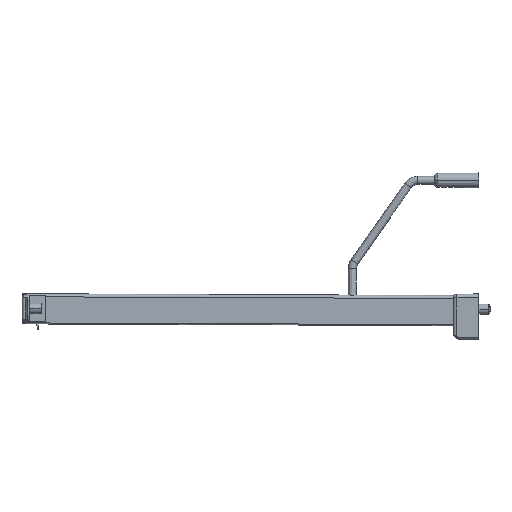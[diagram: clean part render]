
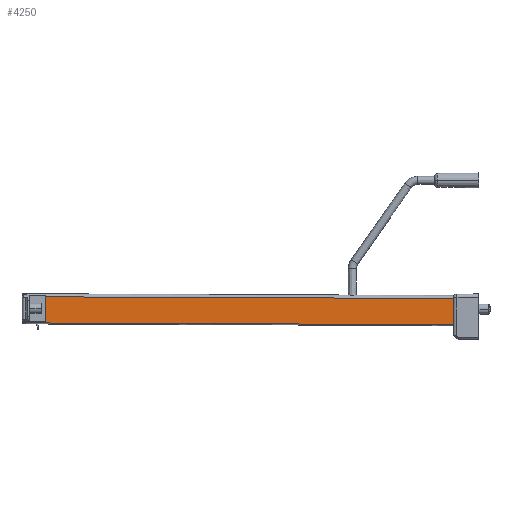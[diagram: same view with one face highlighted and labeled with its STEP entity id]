
A CAD part, left-side view. The second image highlights one B-rep face of the part: STEP entity #4250.
In plain terms, the highlighted planar face has unit normal (-1, 0, 0).
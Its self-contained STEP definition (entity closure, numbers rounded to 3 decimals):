
#932 = CARTESIAN_POINT ( 'NONE',  ( -5.25, 25., -15.5 ) ) ;
#1013 = CARTESIAN_POINT ( 'NONE',  ( -5.25, 25., 10.5 ) ) ;
#1034 = PLANE ( 'NONE',  #4063 ) ;
#1035 = CARTESIAN_POINT ( 'NONE',  ( -5.25, 484.24, -13.665 ) ) ;
#1036 = DIRECTION ( 'NONE',  ( 1., 0., 0. ) ) ;
#1037 = DIRECTION ( 'NONE',  ( 0., 0., 1. ) ) ;
#1256 = CARTESIAN_POINT ( 'NONE',  ( -5.25, 430.9, 12.122 ) ) ;
#1257 = CARTESIAN_POINT ( 'NONE',  ( -5.25, 451.4, -13.796 ) ) ;
#1261 = CARTESIAN_POINT ( 'NONE',  ( -5.25, 430.9, -12.42 ) ) ;
#1262 = CARTESIAN_POINT ( 'NONE',  ( -5.25, 451.4, -12.42 ) ) ;
#1334 = ORIENTED_EDGE ( 'NONE', *, *, #3850, .T. ) ;
#1335 = ORIENTED_EDGE ( 'NONE', *, *, #3849, .T. ) ;
#1336 = ORIENTED_EDGE ( 'NONE', *, *, #3848, .F. ) ;
#1337 = ORIENTED_EDGE ( 'NONE', *, *, #3847, .T. ) ;
#1338 = ORIENTED_EDGE ( 'NONE', *, *, #3846, .T. ) ;
#1339 = ORIENTED_EDGE ( 'NONE', *, *, #3845, .F. ) ;
#1853 = VERTEX_POINT ( 'NONE', #1256 ) ;
#1854 = VERTEX_POINT ( 'NONE', #1257 ) ;
#1858 = VERTEX_POINT ( 'NONE', #1261 ) ;
#1859 = VERTEX_POINT ( 'NONE', #1262 ) ;
#1922 = VERTEX_POINT ( 'NONE', #1013 ) ;
#1932 = VERTEX_POINT ( 'NONE', #932 ) ;
#2208 = CARTESIAN_POINT ( 'NONE',  ( -5.25, 484.136, 12.335 ) ) ;
#2209 = DIRECTION ( 'NONE',  ( 0., -1., -0.004 ) ) ;
#2210 = CARTESIAN_POINT ( 'NONE',  ( -5.25, 25., 15. ) ) ;
#2211 = DIRECTION ( 'NONE',  ( 0., 0., 1. ) ) ;
#2212 = CARTESIAN_POINT ( 'NONE',  ( -5.25, 484.24, -13.665 ) ) ;
#2213 = DIRECTION ( 'NONE',  ( 0., -1., -0.004 ) ) ;
#2214 = CARTESIAN_POINT ( 'NONE',  ( -5.25, 451.4, -13.665 ) ) ;
#2215 = DIRECTION ( 'NONE',  ( 0., 0., 1. ) ) ;
#2216 = CARTESIAN_POINT ( 'NONE',  ( -5.25, 430.9, -12.42 ) ) ;
#2217 = DIRECTION ( 'NONE',  ( 0., 1., 0. ) ) ;
#2218 = CARTESIAN_POINT ( 'NONE',  ( -5.25, 430.9, 13.6 ) ) ;
#2219 = DIRECTION ( 'NONE',  ( 0., 0., -1. ) ) ;
#2887 = LINE ( 'NONE', #2208, #2888 ) ;
#2888 = VECTOR ( 'NONE', #2209, 1000. ) ;
#2889 = LINE ( 'NONE', #2210, #2890 ) ;
#2890 = VECTOR ( 'NONE', #2211, 1000. ) ;
#2891 = LINE ( 'NONE', #2212, #2892 ) ;
#2892 = VECTOR ( 'NONE', #2213, 1000. ) ;
#2893 = LINE ( 'NONE', #2214, #2894 ) ;
#2894 = VECTOR ( 'NONE', #2215, 1000. ) ;
#2895 = LINE ( 'NONE', #2216, #2896 ) ;
#2896 = VECTOR ( 'NONE', #2217, 1000. ) ;
#2897 = LINE ( 'NONE', #2218, #2898 ) ;
#2898 = VECTOR ( 'NONE', #2219, 1000. ) ;
#3098 = FACE_OUTER_BOUND ( 'NONE', #5231, .T. ) ;
#3845 = EDGE_CURVE ( 'NONE', #1853, #1922, #2887, .T. ) ;
#3846 = EDGE_CURVE ( 'NONE', #1932, #1922, #2889, .T. ) ;
#3847 = EDGE_CURVE ( 'NONE', #1854, #1932, #2891, .T. ) ;
#3848 = EDGE_CURVE ( 'NONE', #1854, #1859, #2893, .T. ) ;
#3849 = EDGE_CURVE ( 'NONE', #1858, #1859, #2895, .T. ) ;
#3850 = EDGE_CURVE ( 'NONE', #1853, #1858, #2897, .T. ) ;
#4063 = AXIS2_PLACEMENT_3D ( 'NONE', #1035, #1036, #1037 ) ;
#4250 = ADVANCED_FACE ( 'NONE', ( #3098 ), #1034, .F. ) ;
#5231 = EDGE_LOOP ( 'NONE', ( #1334, #1335, #1336, #1337, #1338, #1339 ) ) ;
